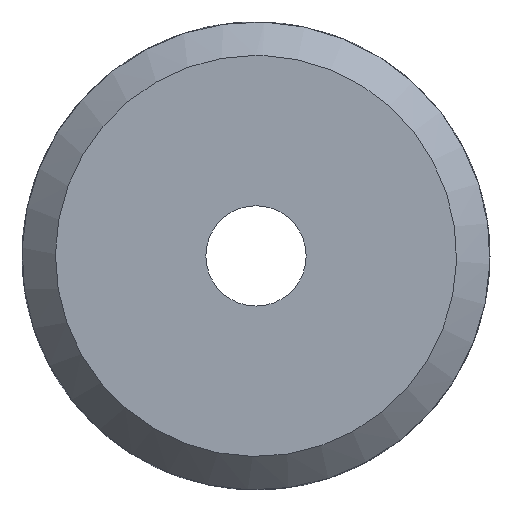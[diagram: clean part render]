
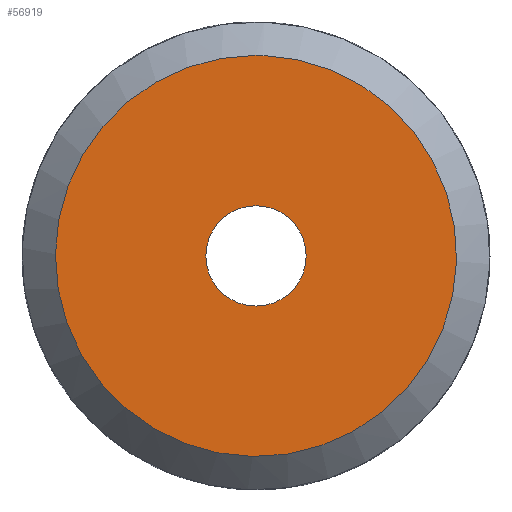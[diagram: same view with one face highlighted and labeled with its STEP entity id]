
A CAD part, left-side view. The second image highlights one B-rep face of the part: STEP entity #56919.
In plain terms, the highlighted planar face has unit normal (-1, 0, 0).
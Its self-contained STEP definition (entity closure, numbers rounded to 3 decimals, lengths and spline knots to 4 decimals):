
#13197=PLANE('',#56327);
#17032=ORIENTED_EDGE('',*,*,#18329,.F.);
#17033=ORIENTED_EDGE('',*,*,#19644,.F.);
#17035=CIRCLE('',#55492,6.);
#17454=CIRCLE('',#56326,1.5);
#17456=VERTEX_POINT('',#22236);
#18327=VERTEX_POINT('',#55485);
#18329=EDGE_CURVE('',#17456,#17456,#17035,.T.);
#19644=EDGE_CURVE('',#18327,#18327,#17454,.T.);
#20097=EDGE_LOOP('',(#17032));
#20098=EDGE_LOOP('',(#17033));
#20551=FACE_BOUND('',#20097,.T.);
#20552=FACE_BOUND('',#20098,.T.);
#20557=DIRECTION('',(1.,0.,0.));
#20558=DIRECTION('',(0.,6.,0.));
#22225=DIRECTION('',(-1.,0.,0.));
#22226=DIRECTION('',(0.,0.,-1.5));
#22227=DIRECTION('',(-1.,0.,0.));
#22228=DIRECTION('',(0.,1.,0.));
#22236=CARTESIAN_POINT('',(57.2476,295.7956,0.));
#22237=CARTESIAN_POINT('',(57.2476,289.7956,0.));
#55485=CARTESIAN_POINT('',(57.2476,289.7956,-1.5));
#55486=CARTESIAN_POINT('',(57.2476,289.7956,0.));
#55487=CARTESIAN_POINT('',(57.2476,289.7956,0.));
#55492=AXIS2_PLACEMENT_3D('',#22237,#20557,#20558);
#56326=AXIS2_PLACEMENT_3D('',#55486,#22225,#22226);
#56327=AXIS2_PLACEMENT_3D('',#55487,#22227,#22228);
#56919=ADVANCED_FACE('',(#20551,#20552),#13197,.T.);
